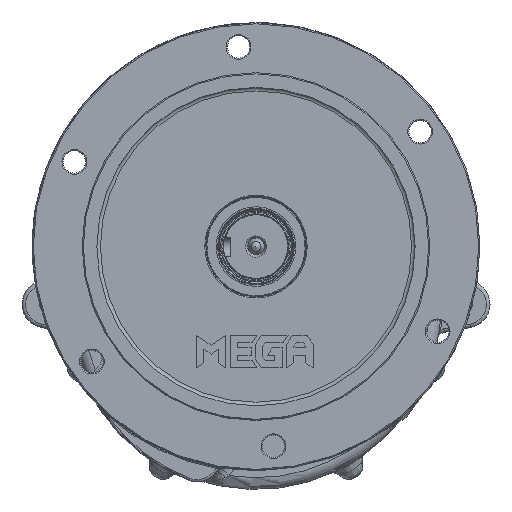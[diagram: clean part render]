
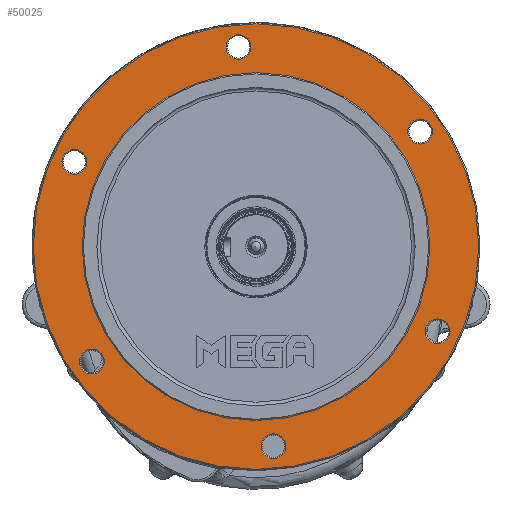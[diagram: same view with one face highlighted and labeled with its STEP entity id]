
A CAD part, front view. The second image highlights one B-rep face of the part: STEP entity #50025.
In plain terms, the highlighted planar face has unit normal (0, -1, 0).
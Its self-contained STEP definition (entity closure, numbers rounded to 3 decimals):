
#908=FACE_BOUND('',#6595,.T.);
#909=FACE_BOUND('',#6596,.T.);
#910=FACE_BOUND('',#6597,.T.);
#911=FACE_BOUND('',#6598,.T.);
#912=FACE_BOUND('',#6599,.T.);
#913=FACE_BOUND('',#6600,.T.);
#914=FACE_BOUND('',#6601,.T.);
#2023=PLANE('',#54102);
#3486=FACE_OUTER_BOUND('',#6594,.T.);
#6594=EDGE_LOOP('',(#35909));
#6595=EDGE_LOOP('',(#35910));
#6596=EDGE_LOOP('',(#35911));
#6597=EDGE_LOOP('',(#35912));
#6598=EDGE_LOOP('',(#35913));
#6599=EDGE_LOOP('',(#35914));
#6600=EDGE_LOOP('',(#35915));
#6601=EDGE_LOOP('',(#35916));
#9846=CIRCLE('',#54099,10.5);
#9849=CIRCLE('',#54103,189.);
#9850=CIRCLE('',#54104,10.5);
#9851=CIRCLE('',#54105,10.5);
#9852=CIRCLE('',#54106,10.5);
#9853=CIRCLE('',#54107,147.5);
#9854=CIRCLE('',#54108,10.5);
#9855=CIRCLE('',#54109,10.5);
#20810=VERTEX_POINT('',#79334);
#20813=VERTEX_POINT('',#79342);
#20814=VERTEX_POINT('',#79344);
#20815=VERTEX_POINT('',#79346);
#20816=VERTEX_POINT('',#79348);
#20817=VERTEX_POINT('',#79350);
#20818=VERTEX_POINT('',#79352);
#20819=VERTEX_POINT('',#79354);
#26189=EDGE_CURVE('',#20810,#20810,#9846,.T.);
#26193=EDGE_CURVE('',#20813,#20813,#9849,.T.);
#26194=EDGE_CURVE('',#20814,#20814,#9850,.T.);
#26195=EDGE_CURVE('',#20815,#20815,#9851,.T.);
#26196=EDGE_CURVE('',#20816,#20816,#9852,.T.);
#26197=EDGE_CURVE('',#20817,#20817,#9853,.T.);
#26198=EDGE_CURVE('',#20818,#20818,#9854,.T.);
#26199=EDGE_CURVE('',#20819,#20819,#9855,.T.);
#35909=ORIENTED_EDGE('',*,*,#26193,.F.);
#35910=ORIENTED_EDGE('',*,*,#26194,.F.);
#35911=ORIENTED_EDGE('',*,*,#26195,.F.);
#35912=ORIENTED_EDGE('',*,*,#26196,.F.);
#35913=ORIENTED_EDGE('',*,*,#26197,.F.);
#35914=ORIENTED_EDGE('',*,*,#26198,.F.);
#35915=ORIENTED_EDGE('',*,*,#26199,.F.);
#35916=ORIENTED_EDGE('',*,*,#26189,.F.);
#50025=ADVANCED_FACE('',(#3486,#908,#909,#910,#911,#912,#913,#914),#2023,
 .T.);
#54099=AXIS2_PLACEMENT_3D('',#79335,#63202,#63203);
#54102=AXIS2_PLACEMENT_3D('',#79341,#63209,#63210);
#54103=AXIS2_PLACEMENT_3D('',#79343,#63211,#63212);
#54104=AXIS2_PLACEMENT_3D('',#79345,#63213,#63214);
#54105=AXIS2_PLACEMENT_3D('',#79347,#63215,#63216);
#54106=AXIS2_PLACEMENT_3D('',#79349,#63217,#63218);
#54107=AXIS2_PLACEMENT_3D('',#79351,#63219,#63220);
#54108=AXIS2_PLACEMENT_3D('',#79353,#63221,#63222);
#54109=AXIS2_PLACEMENT_3D('',#79355,#63223,#63224);
#63202=DIRECTION('center_axis',(0.,-1.,0.));
#63203=DIRECTION('ref_axis',(-0.5,0.,-0.866));
#63209=DIRECTION('center_axis',(0.,-1.,0.));
#63210=DIRECTION('ref_axis',(0.,0.,-1.));
#63211=DIRECTION('center_axis',(0.,1.,0.));
#63212=DIRECTION('ref_axis',(-1.,0.,0.));
#63213=DIRECTION('center_axis',(0.,-1.,0.));
#63214=DIRECTION('ref_axis',(0.5,0.,-0.866));
#63215=DIRECTION('center_axis',(0.,-1.,0.));
#63216=DIRECTION('ref_axis',(0.5,0.,0.866));
#63217=DIRECTION('center_axis',(0.,-1.,0.));
#63218=DIRECTION('ref_axis',(-1.,0.,0.));
#63219=DIRECTION('center_axis',(0.,-1.,0.));
#63220=DIRECTION('ref_axis',(-1.,0.,0.));
#63221=DIRECTION('center_axis',(0.,-1.,0.));
#63222=DIRECTION('ref_axis',(-0.5,0.,0.866));
#63223=DIRECTION('center_axis',(0.,-1.,0.));
#63224=DIRECTION('ref_axis',(1.,0.,0.));
#79334=CARTESIAN_POINT('',(-148.594,-213.228,128.188));
#79335=CARTESIAN_POINT('Origin',(-153.844,-213.228,119.095));
#79341=CARTESIAN_POINT('Origin',(0.228,-213.228,47.25));
#79342=CARTESIAN_POINT('',(189.228,-213.228,47.25));
#79343=CARTESIAN_POINT('Origin',(0.228,-213.228,47.25));
#79344=CARTESIAN_POINT('',(-144.277,-213.228,-41.165));
#79345=CARTESIAN_POINT('Origin',(-139.027,-213.228,-50.258));
#79346=CARTESIAN_POINT('',(149.051,-213.228,-33.688));
#79347=CARTESIAN_POINT('Origin',(154.301,-213.228,-24.595));
#79348=CARTESIAN_POINT('',(-4.088,-213.228,216.603));
#79349=CARTESIAN_POINT('Origin',(-14.588,-213.228,216.603));
#79350=CARTESIAN_POINT('',(147.728,-213.228,47.25));
#79351=CARTESIAN_POINT('Origin',(0.228,-213.228,47.25));
#79352=CARTESIAN_POINT('',(144.734,-213.228,135.665));
#79353=CARTESIAN_POINT('Origin',(139.484,-213.228,144.758));
#79354=CARTESIAN_POINT('',(4.545,-213.228,-122.103));
#79355=CARTESIAN_POINT('Origin',(15.045,-213.228,-122.103));
